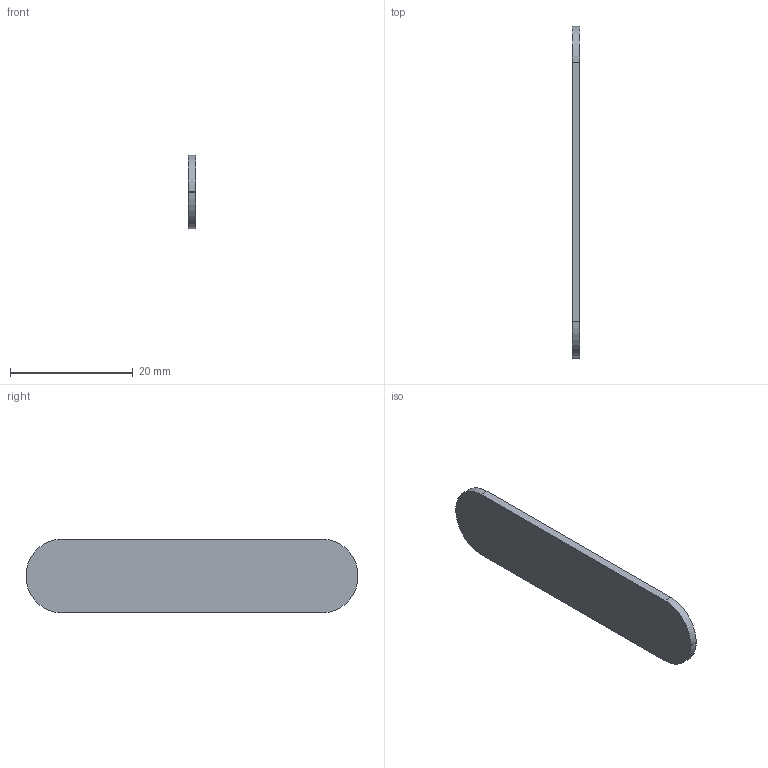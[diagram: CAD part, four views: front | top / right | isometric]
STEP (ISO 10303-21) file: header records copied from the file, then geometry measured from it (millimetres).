
FILE_DESCRIPTION(/* description */ (''),/* implementation_level */ '2;1');
FILE_NAME(/* name */ 'F02.step',/* time_stamp */ '2026-09-14T14:31:01-07:00',/* author */ (''),/* organization */ (''),/* preprocessor_version */ 'ST-DEVELOPER v20.1',/* originating_system */ 'Autodesk Translation Framework v15.8.0.0',/* authorisation */ '');
FILE_SCHEMA (('AUTOMOTIVE_DESIGN { 1 0 10303 214 3 1 1 }'));
Length unit declared in the file: millimetre
Products named in the file (1): 2026-09-14-14-31-01-040
Bounding box: 1.3 x 54 x 12 mm (x, y, z)
Volume: 803.6 mm3; surface area: 1394.7 mm2
Topology: 1 solids, 1 shells, 10 faces, 24 edges, 16 vertices
Faces by surface type: plane 6, cylinder 4
Entity records: 329 total; most frequent: DIRECTION 54, CARTESIAN_POINT 51, ORIENTED_EDGE 48, EDGE_CURVE 24, AXIS2_PLACEMENT_3D 19, LINE 16, VECTOR 16, VERTEX_POINT 16
